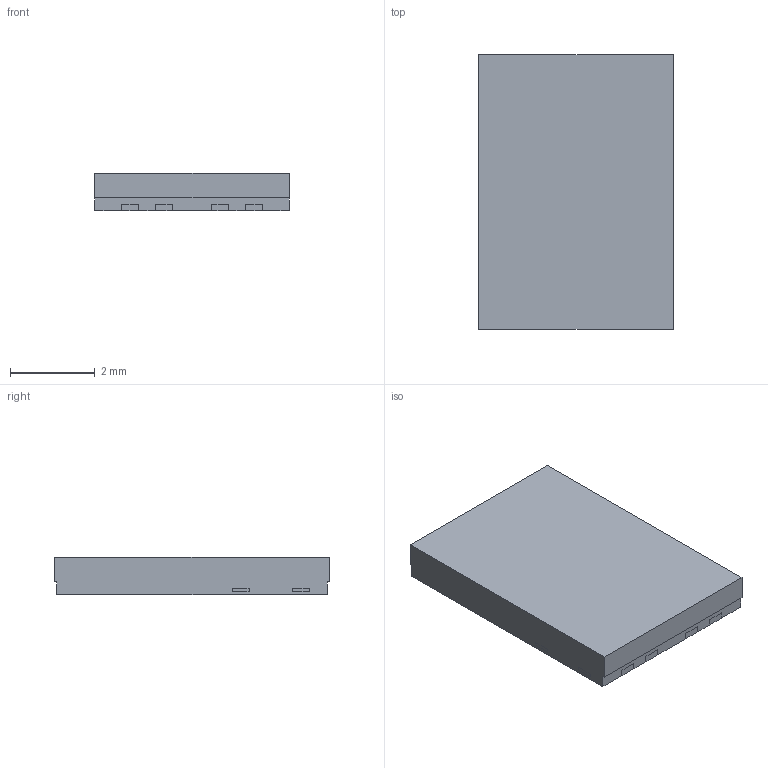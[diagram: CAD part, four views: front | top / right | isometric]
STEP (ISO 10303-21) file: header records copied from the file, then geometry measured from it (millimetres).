
FILE_DESCRIPTION (( 'STEP AP214' ), '1' );
FILE_NAME ('DFN6546A 3D_defeature.STEP', '2024-10-30T05:03:39', ( '' ), ( '' ), 'SwSTEP 2.0', 'SolidWorks 2018', '' );
FILE_SCHEMA (( 'AUTOMOTIVE_DESIGN' ));
Length unit declared in the file: millimetre
Products named in the file (1): DFN6546A 3D_defeature
Bounding box: 4.6 x 6.5 x 0.88 mm (x, y, z)
Volume: 26.2 mm3; surface area: 79.3 mm2
Topology: 1 solids, 1 shells, 30 faces, 110 edges, 86 vertices
Faces by surface type: plane 30
Entity records: 1399 total; most frequent: CARTESIAN_POINT 227, ORIENTED_EDGE 220, DIRECTION 174, EDGE_CURVE 110, LINE 108, VECTOR 108, VERTEX_POINT 86, EDGE_LOOP 34
